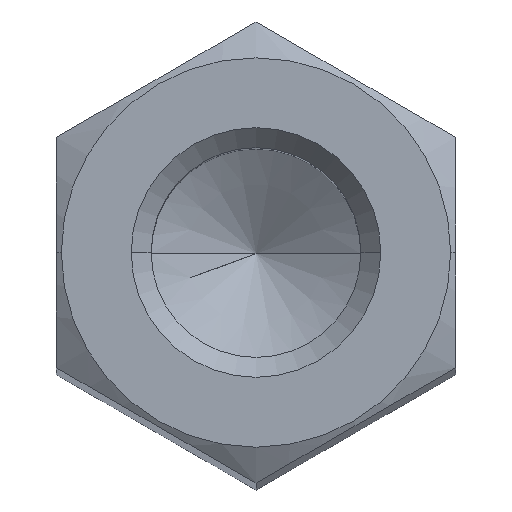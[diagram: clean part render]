
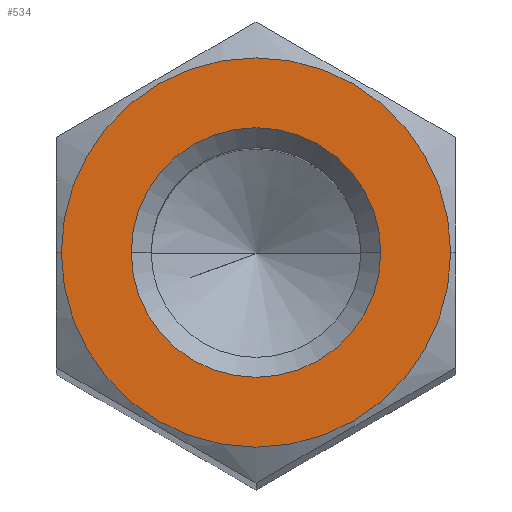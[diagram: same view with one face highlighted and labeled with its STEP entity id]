
A CAD part, top view. The second image highlights one B-rep face of the part: STEP entity #534.
In plain terms, the highlighted planar face has unit normal (0, 0, 1).
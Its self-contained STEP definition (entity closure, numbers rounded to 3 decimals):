
#25 = CIRCLE ( 'NONE', #673, 2.5 ) ;
#39 = EDGE_LOOP ( 'NONE', ( #477, #422 ) ) ;
#44 = DIRECTION ( 'NONE',  ( 0., 0., 1. ) ) ;
#47 = PLANE ( 'NONE',  #390 ) ;
#48 = DIRECTION ( 'NONE',  ( 0., 0., -1. ) ) ;
#54 = FACE_OUTER_BOUND ( 'NONE', #39, .T. ) ;
#67 = FACE_BOUND ( 'NONE', #466, .T. ) ;
#68 = CIRCLE ( 'NONE', #220, 2.5 ) ;
#73 = DIRECTION ( 'NONE',  ( 1., 0., 0. ) ) ;
#104 = DIRECTION ( 'NONE',  ( 1., 0., 0. ) ) ;
#117 = CIRCLE ( 'NONE', #657, 3.9 ) ;
#121 = DIRECTION ( 'NONE',  ( 0., 0., -1. ) ) ;
#143 = CIRCLE ( 'NONE', #545, 3.9 ) ;
#220 = AXIS2_PLACEMENT_3D ( 'NONE', #511, #48, #561 ) ;
#241 = DIRECTION ( 'NONE',  ( 0., 0., 1. ) ) ;
#266 = VERTEX_POINT ( 'NONE', #764 ) ;
#272 = VERTEX_POINT ( 'NONE', #759 ) ;
#321 = EDGE_CURVE ( 'NONE', #272, #418, #143, .T. ) ;
#390 = AXIS2_PLACEMENT_3D ( 'NONE', #428, #44, #104 ) ;
#394 = EDGE_CURVE ( 'NONE', #418, #272, #117, .T. ) ;
#407 = CARTESIAN_POINT ( 'NONE',  ( -3.9, 0., 0. ) ) ;
#418 = VERTEX_POINT ( 'NONE', #407 ) ;
#422 = ORIENTED_EDGE ( 'NONE', *, *, #321, .T. ) ;
#428 = CARTESIAN_POINT ( 'NONE',  ( 0., 0., 0. ) ) ;
#463 = CARTESIAN_POINT ( 'NONE',  ( 0., 0., 0. ) ) ;
#466 = EDGE_LOOP ( 'NONE', ( #731, #471 ) ) ;
#471 = ORIENTED_EDGE ( 'NONE', *, *, #551, .T. ) ;
#477 = ORIENTED_EDGE ( 'NONE', *, *, #394, .T. ) ;
#511 = CARTESIAN_POINT ( 'NONE',  ( 0., 0., 0. ) ) ;
#534 = ADVANCED_FACE ( 'NONE', ( #67, #54 ), #47, .T. ) ;
#545 = AXIS2_PLACEMENT_3D ( 'NONE', #463, #750, #73 ) ;
#546 = VERTEX_POINT ( 'NONE', #558 ) ;
#551 = EDGE_CURVE ( 'NONE', #546, #266, #68, .T. ) ;
#558 = CARTESIAN_POINT ( 'NONE',  ( -2.5, 0., 0. ) ) ;
#561 = DIRECTION ( 'NONE',  ( 1., 0., 0. ) ) ;
#568 = CARTESIAN_POINT ( 'NONE',  ( 0., 0., 0. ) ) ;
#607 = DIRECTION ( 'NONE',  ( 1., 0., 0. ) ) ;
#630 = CARTESIAN_POINT ( 'NONE',  ( 0., 0., 0. ) ) ;
#649 = EDGE_CURVE ( 'NONE', #266, #546, #25, .T. ) ;
#657 = AXIS2_PLACEMENT_3D ( 'NONE', #630, #241, #671 ) ;
#671 = DIRECTION ( 'NONE',  ( 1., 0., 0. ) ) ;
#673 = AXIS2_PLACEMENT_3D ( 'NONE', #568, #121, #607 ) ;
#731 = ORIENTED_EDGE ( 'NONE', *, *, #649, .T. ) ;
#750 = DIRECTION ( 'NONE',  ( 0., 0., 1. ) ) ;
#759 = CARTESIAN_POINT ( 'NONE',  ( 3.9, 0., 0. ) ) ;
#764 = CARTESIAN_POINT ( 'NONE',  ( 2.5, 0., 0. ) ) ;
